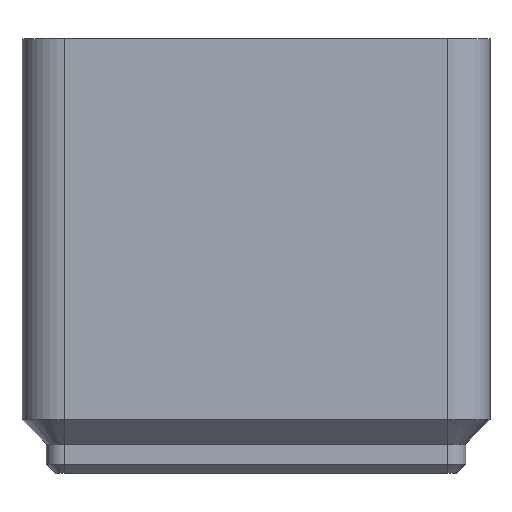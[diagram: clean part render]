
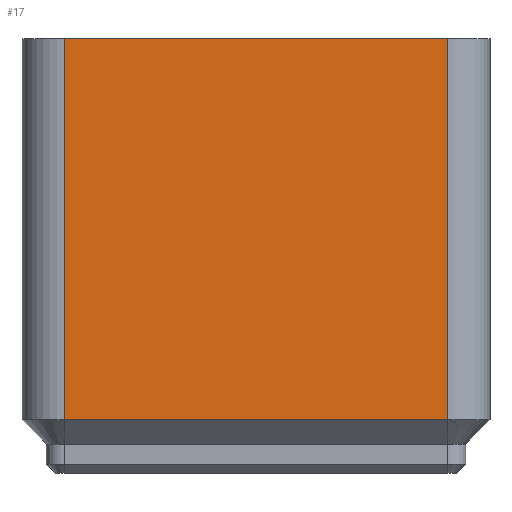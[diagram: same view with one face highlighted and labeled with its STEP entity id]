
A CAD part, left-side view. The second image highlights one B-rep face of the part: STEP entity #17.
In plain terms, the highlighted planar face has unit normal (-1, 0, 0).
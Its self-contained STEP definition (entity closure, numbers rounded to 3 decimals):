
#17 = ADVANCED_FACE('',(#18),#32,.T.);
#18 = FACE_BOUND('',#19,.T.);
#19 = EDGE_LOOP('',(#20,#55,#83,#111));
#20 = ORIENTED_EDGE('',*,*,#21,.T.);
#21 = EDGE_CURVE('',#22,#24,#26,.T.);
#22 = VERTEX_POINT('',#23);
#23 = CARTESIAN_POINT('',(-20.75,-17.,4.75));
#24 = VERTEX_POINT('',#25);
#25 = CARTESIAN_POINT('',(-20.75,-17.,38.55));
#26 = SURFACE_CURVE('',#27,(#31,#43),.PCURVE_S1.);
#27 = LINE('',#28,#29);
#28 = CARTESIAN_POINT('',(-20.75,-17.,4.75));
#29 = VECTOR('',#30,1.);
#30 = DIRECTION('',(0.,0.,1.));
#31 = PCURVE('',#32,#37);
#32 = PLANE('',#33);
#33 = AXIS2_PLACEMENT_3D('',#34,#35,#36);
#34 = CARTESIAN_POINT('',(-20.75,-17.,4.75));
#35 = DIRECTION('',(-1.,0.,0.));
#36 = DIRECTION('',(0.,1.,0.));
#37 = DEFINITIONAL_REPRESENTATION('',(#38),#42);
#38 = LINE('',#39,#40);
#39 = CARTESIAN_POINT('',(0.,0.));
#40 = VECTOR('',#41,1.);
#41 = DIRECTION('',(0.,-1.));
#42 = ( GEOMETRIC_REPRESENTATION_CONTEXT(2) 
PARAMETRIC_REPRESENTATION_CONTEXT() REPRESENTATION_CONTEXT('2D SPACE',''
  ) );
#43 = PCURVE('',#44,#49);
#44 = CYLINDRICAL_SURFACE('',#45,3.75);
#45 = AXIS2_PLACEMENT_3D('',#46,#47,#48);
#46 = CARTESIAN_POINT('',(-17.,-17.,4.75));
#47 = DIRECTION('',(0.,0.,-1.));
#48 = DIRECTION('',(-1.,0.,0.));
#49 = DEFINITIONAL_REPRESENTATION('',(#50),#54);
#50 = LINE('',#51,#52);
#51 = CARTESIAN_POINT('',(6.283,0.));
#52 = VECTOR('',#53,1.);
#53 = DIRECTION('',(0.,-1.));
#54 = ( GEOMETRIC_REPRESENTATION_CONTEXT(2) 
PARAMETRIC_REPRESENTATION_CONTEXT() REPRESENTATION_CONTEXT('2D SPACE',''
  ) );
#55 = ORIENTED_EDGE('',*,*,#56,.T.);
#56 = EDGE_CURVE('',#24,#57,#59,.T.);
#57 = VERTEX_POINT('',#58);
#58 = CARTESIAN_POINT('',(-20.75,17.,38.55));
#59 = SURFACE_CURVE('',#60,(#64,#71),.PCURVE_S1.);
#60 = LINE('',#61,#62);
#61 = CARTESIAN_POINT('',(-20.75,0.,38.55));
#62 = VECTOR('',#63,1.);
#63 = DIRECTION('',(0.,1.,0.));
#64 = PCURVE('',#32,#65);
#65 = DEFINITIONAL_REPRESENTATION('',(#66),#70);
#66 = LINE('',#67,#68);
#67 = CARTESIAN_POINT('',(17.,-33.8));
#68 = VECTOR('',#69,1.);
#69 = DIRECTION('',(1.,0.));
#70 = ( GEOMETRIC_REPRESENTATION_CONTEXT(2) 
PARAMETRIC_REPRESENTATION_CONTEXT() REPRESENTATION_CONTEXT('2D SPACE',''
  ) );
#71 = PCURVE('',#72,#77);
#72 = PLANE('',#73);
#73 = AXIS2_PLACEMENT_3D('',#74,#75,#76);
#74 = CARTESIAN_POINT('',(0.,0.,38.55)
  );
#75 = DIRECTION('',(0.,0.,1.));
#76 = DIRECTION('',(1.,0.,0.));
#77 = DEFINITIONAL_REPRESENTATION('',(#78),#82);
#78 = LINE('',#79,#80);
#79 = CARTESIAN_POINT('',(-20.75,0.));
#80 = VECTOR('',#81,1.);
#81 = DIRECTION('',(0.,1.));
#82 = ( GEOMETRIC_REPRESENTATION_CONTEXT(2) 
PARAMETRIC_REPRESENTATION_CONTEXT() REPRESENTATION_CONTEXT('2D SPACE',''
  ) );
#83 = ORIENTED_EDGE('',*,*,#84,.F.);
#84 = EDGE_CURVE('',#85,#57,#87,.T.);
#85 = VERTEX_POINT('',#86);
#86 = CARTESIAN_POINT('',(-20.75,17.,4.75));
#87 = SURFACE_CURVE('',#88,(#92,#99),.PCURVE_S1.);
#88 = LINE('',#89,#90);
#89 = CARTESIAN_POINT('',(-20.75,17.,4.75));
#90 = VECTOR('',#91,1.);
#91 = DIRECTION('',(0.,0.,1.));
#92 = PCURVE('',#32,#93);
#93 = DEFINITIONAL_REPRESENTATION('',(#94),#98);
#94 = LINE('',#95,#96);
#95 = CARTESIAN_POINT('',(34.,0.));
#96 = VECTOR('',#97,1.);
#97 = DIRECTION('',(0.,-1.));
#98 = ( GEOMETRIC_REPRESENTATION_CONTEXT(2) 
PARAMETRIC_REPRESENTATION_CONTEXT() REPRESENTATION_CONTEXT('2D SPACE',''
  ) );
#99 = PCURVE('',#100,#105);
#100 = CYLINDRICAL_SURFACE('',#101,3.75);
#101 = AXIS2_PLACEMENT_3D('',#102,#103,#104);
#102 = CARTESIAN_POINT('',(-17.,17.,4.75));
#103 = DIRECTION('',(0.,0.,-1.));
#104 = DIRECTION('',(-1.,0.,0.));
#105 = DEFINITIONAL_REPRESENTATION('',(#106),#110);
#106 = LINE('',#107,#108);
#107 = CARTESIAN_POINT('',(0.,0.));
#108 = VECTOR('',#109,1.);
#109 = DIRECTION('',(0.,-1.));
#110 = ( GEOMETRIC_REPRESENTATION_CONTEXT(2) 
PARAMETRIC_REPRESENTATION_CONTEXT() REPRESENTATION_CONTEXT('2D SPACE',''
  ) );
#111 = ORIENTED_EDGE('',*,*,#112,.F.);
#112 = EDGE_CURVE('',#22,#85,#113,.T.);
#113 = SURFACE_CURVE('',#114,(#118,#125),.PCURVE_S1.);
#114 = LINE('',#115,#116);
#115 = CARTESIAN_POINT('',(-20.75,0.,4.75));
#116 = VECTOR('',#117,1.);
#117 = DIRECTION('',(0.,1.,0.));
#118 = PCURVE('',#32,#119);
#119 = DEFINITIONAL_REPRESENTATION('',(#120),#124);
#120 = LINE('',#121,#122);
#121 = CARTESIAN_POINT('',(17.,0.));
#122 = VECTOR('',#123,1.);
#123 = DIRECTION('',(1.,0.));
#124 = ( GEOMETRIC_REPRESENTATION_CONTEXT(2) 
PARAMETRIC_REPRESENTATION_CONTEXT() REPRESENTATION_CONTEXT('2D SPACE',''
  ) );
#125 = PCURVE('',#126,#131);
#126 = PLANE('',#127);
#127 = AXIS2_PLACEMENT_3D('',#128,#129,#130);
#128 = CARTESIAN_POINT('',(-20.75,0.,4.75));
#129 = DIRECTION('',(-0.707,0.,-0.707));
#130 = DIRECTION('',(0.,-1.,-0.));
#131 = DEFINITIONAL_REPRESENTATION('',(#132),#136);
#132 = LINE('',#133,#134);
#133 = CARTESIAN_POINT('',(0.,0.));
#134 = VECTOR('',#135,1.);
#135 = DIRECTION('',(-1.,0.));
#136 = ( GEOMETRIC_REPRESENTATION_CONTEXT(2) 
PARAMETRIC_REPRESENTATION_CONTEXT() REPRESENTATION_CONTEXT('2D SPACE',''
  ) );
